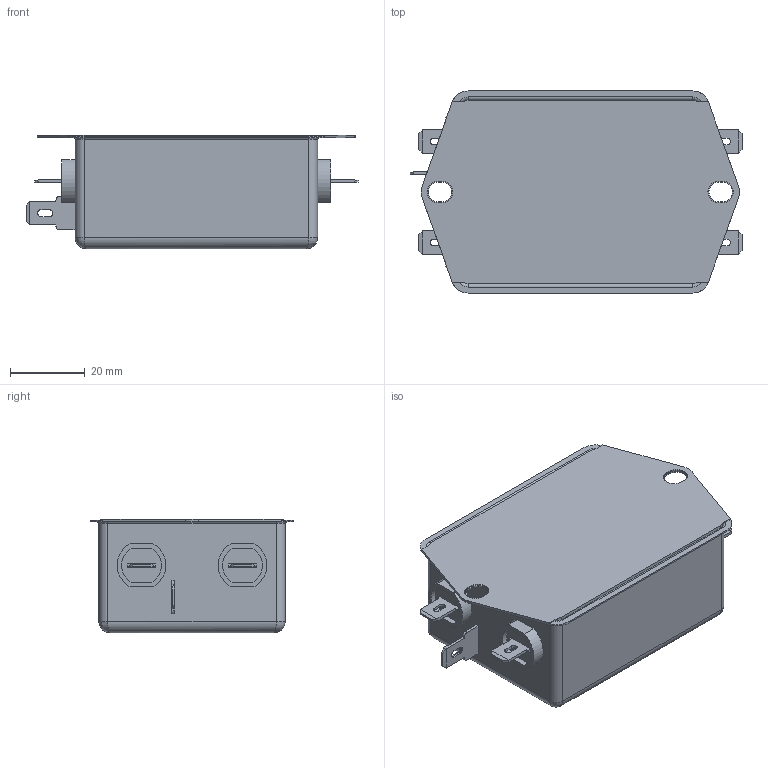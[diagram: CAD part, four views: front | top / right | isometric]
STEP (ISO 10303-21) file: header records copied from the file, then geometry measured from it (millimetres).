
FILE_DESCRIPTION((''),'2;1');
FILE_NAME('K:\Development\Product_FN\A Redesign FN2000_FN600\FN2030\3D FILE LIBRARY\FN2030-8-06.stp','2012-09-18T09:41:53',('Fiona.chen'),(''),'Autodesk Inventor 2010','Autodesk Inventor 2010','');
FILE_SCHEMA(('AUTOMOTIVE_DESIGN { 1 0 10303 214 1 1 1 1 }'));
Length unit declared in the file: millimetre
Products named in the file (1): FN2030-8-06_包覆面提取_3
Bounding box: 88.7 x 54 x 30.3 mm (x, y, z)
Volume: 99100 mm3; surface area: 17012.2 mm2
Topology: 1 solids, 5 shells, 452 faces, 1250 edges, 804 vertices
Faces by surface type: plane 278, cylinder 154, bspline 12, cone 4, torus 4
Entity records: 14860 total; most frequent: CARTESIAN_POINT 2854, DIRECTION 2528, ORIENTED_EDGE 2492, EDGE_CURVE 1246, AXIS2_PLACEMENT_3D 843, VECTOR 842, LINE 842, VERTEX_POINT 804
